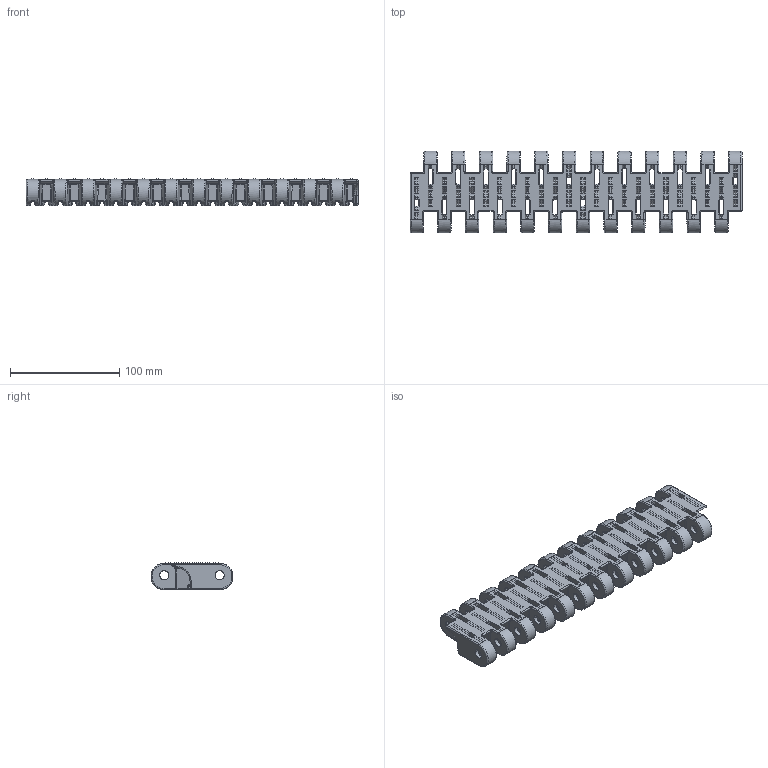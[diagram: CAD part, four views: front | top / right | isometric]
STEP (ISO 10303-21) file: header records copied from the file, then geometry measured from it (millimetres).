
FILE_DESCRIPTION((''),'2;1');
FILE_NAME('P1312','2013-06-12T',('mth'),(''),'PRO/ENGINEER BY PARAMETRIC TECHNOLOGY CORPORATION, 2013050','PRO/ENGINEER BY PARAMETRIC TECHNOLOGY CORPORATION, 2013050','');
FILE_SCHEMA(('CONFIG_CONTROL_DESIGN'));
Products named in the file (1): P1312
Bounding box: 304.4 x 75.15 x 25 mm (x, y, z)
Volume: 185885.5 mm3; surface area: 106528.4 mm2
Topology: 1 solids, 1 shells, 5832 faces, 12810 edges, 6960 vertices
Faces by surface type: plane 2598, cylinder 1540, bspline 1300, sphere 198, torus 196
Entity records: 281039 total; most frequent: CARTESIAN_POINT 164515, ORIENTED_EDGE 25620, DIRECTION 21760, EDGE_CURVE 12810, AXIS2_PLACEMENT_3D 7518, VERTEX_POINT 6960, VECTOR 6724, LINE 6724
